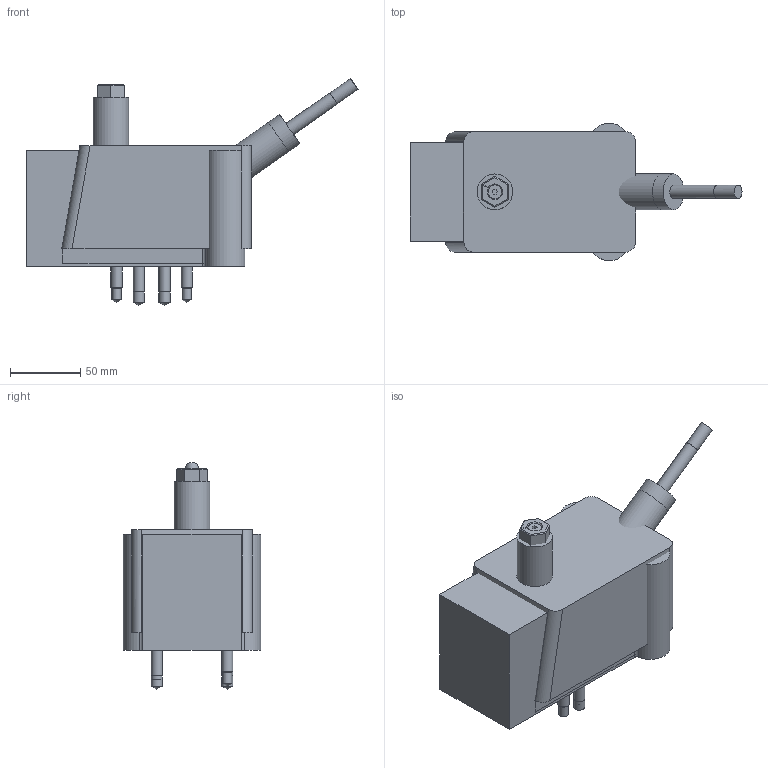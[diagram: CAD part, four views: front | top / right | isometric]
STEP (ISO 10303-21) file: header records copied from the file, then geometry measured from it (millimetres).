
FILE_DESCRIPTION(('STEP AP214'),'1');
FILE_NAME('0011_EZ-35-S_201209.stp','2020-12-14T12:29:34',(' '),(' '),'Spatial InterOp 3D',' ',' ');
FILE_SCHEMA(('AUTOMOTIVE_DESIGN { 1 0 10303 214 1 1 1 1 }'));
Length unit declared in the file: metre
Products named in the file (18): 1583925393; 1583159039; 1580702757; 1580702734; 1580700033; 1580688335; 1580688599; 1580688640; 1580689014; 1580689030; 1580689046; 1580689062; 1580689236; 1580689244; 1562100740; 1562099358; 1607693797; 1
Bounding box: 236.12 x 97.7 x 161.39 mm (x, y, z)
Volume: 2492570.9 mm3; surface area: 231274.4 mm2
Topology: 17 solids, 17 shells, 260 faces, 577 edges, 370 vertices
Faces by surface type: plane 145, cylinder 65, cone 36, bspline 8, torus 4, sphere 2
Full cylindrical faces by diameter (mm): 3.797 x1, 4.089 x1, 4.826 x3, 5.159 x1, 6.35 x1, 6.528 x2, 7.938 x11, 8.433 x1, 8.5 x2, 8.731 x1, 9.5 x1, 9.525 x4, 11.906 x2, 12.7 x4, 14.25 x2, 15.875 x1, 25.146 x1, 25.4 x1, 25.527 x1, 26.746 x2, 27 x2, 50.292 x1
Entity records: 19483 total; most frequent: CARTESIAN_POINT 11829, DIRECTION 1135, ORIENTED_EDGE 920, EDGE_CURVE 460, AXIS2_PLACEMENT_3D 440, EDGE_LOOP 377, VERTEX_POINT 343, FACE_OUTER_BOUND 310
